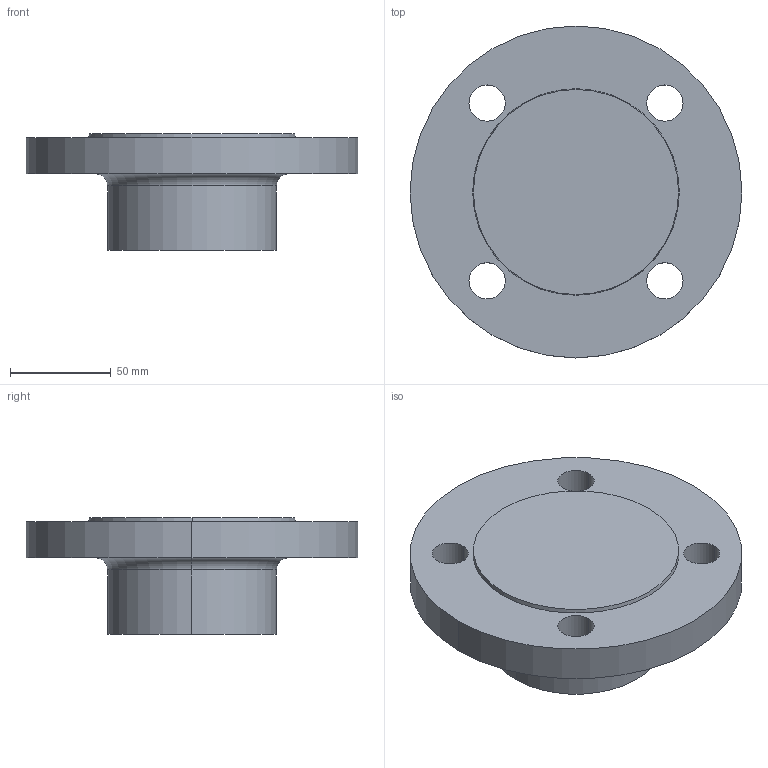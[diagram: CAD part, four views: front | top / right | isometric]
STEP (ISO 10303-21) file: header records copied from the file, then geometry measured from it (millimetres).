
FILE_DESCRIPTION (( 'STEP AP214' ), '1' );
FILE_NAME ('PN40 DN50 Type 21(i) - Type B Face.STEP', '2018-12-30T04:27:29', ( '' ), ( '' ), 'SwSTEP 2.0', 'SolidWorks 2019', '' );
FILE_SCHEMA (( 'AUTOMOTIVE_DESIGN' ));
Length unit declared in the file: millimetre
Products named in the file (1): PN40 DN50 Type 21(i) - Type B Face
Bounding box: 165 x 165 x 58 mm (x, y, z)
Volume: 595709.5 mm3; surface area: 64035.2 mm2
Topology: 1 solids, 1 shells, 20 faces, 46 edges, 30 vertices
Faces by surface type: cylinder 12, plane 4, torus 2, cone 2
Entity records: 636 total; most frequent: DIRECTION 120, CARTESIAN_POINT 97, ORIENTED_EDGE 92, AXIS2_PLACEMENT_3D 53, EDGE_CURVE 46, CIRCLE 32, VERTEX_POINT 30, EDGE_LOOP 30
